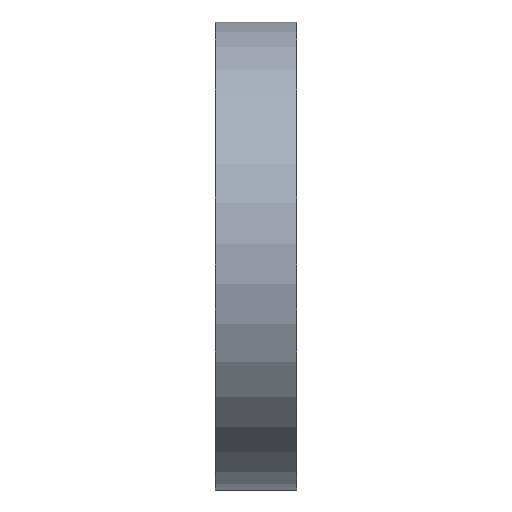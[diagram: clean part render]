
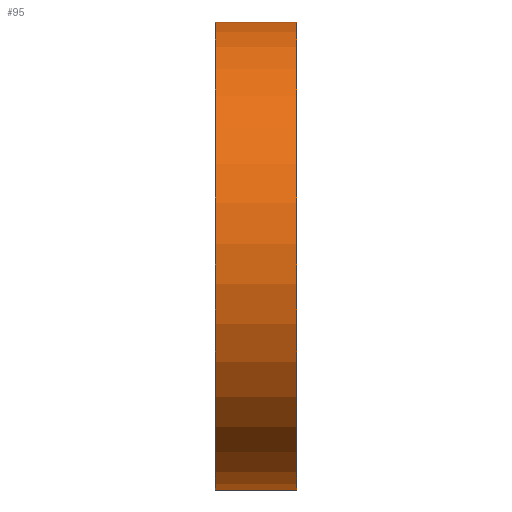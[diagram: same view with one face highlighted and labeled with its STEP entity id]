
A CAD part, front view. The second image highlights one B-rep face of the part: STEP entity #95.
In plain terms, the highlighted cylindrical face has radius 28.65 mm (diameter 57.3 mm), a full revolution.
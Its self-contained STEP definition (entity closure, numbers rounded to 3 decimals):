
#68=CARTESIAN_POINT('',(0.,0.,0.));
#69=DIRECTION('',(1.,0.,0.));
#70=DIRECTION('',(0.,0.053,0.999));
#71=AXIS2_PLACEMENT_3D('',#68,#69,#70);
#72=CYLINDRICAL_SURFACE('',#71,28.65);
#73=CARTESIAN_POINT('',(10.,-1.519,-28.61));
#74=VERTEX_POINT('',#73);
#75=CARTESIAN_POINT('',(10.,0.,0.));
#76=DIRECTION('',(-1.0,0.,0.));
#77=DIRECTION('',(0.,0.053,0.999));
#78=AXIS2_PLACEMENT_3D('',#75,#76,#77);
#79=CIRCLE('',#78,28.65);
#80=EDGE_CURVE('',#74,#74,#79,.T.);
#81=ORIENTED_EDGE('',*,*,#80,.T.);
#82=EDGE_LOOP('',(#81));
#83=FACE_OUTER_BOUND('',#82,.T.);
#84=CARTESIAN_POINT('',(0.,-1.519,-28.61));
#85=VERTEX_POINT('',#84);
#86=CARTESIAN_POINT('',(0.,0.,0.));
#87=DIRECTION('',(-1.0,0.,0.));
#88=DIRECTION('',(0.,0.053,0.999));
#89=AXIS2_PLACEMENT_3D('',#86,#87,#88);
#90=CIRCLE('',#89,28.65);
#91=EDGE_CURVE('',#85,#85,#90,.T.);
#92=ORIENTED_EDGE('',*,*,#91,.F.);
#93=EDGE_LOOP('',(#92));
#94=FACE_BOUND('',#93,.T.);
#95=ADVANCED_FACE('',(#83,#94),#72,.T.);
